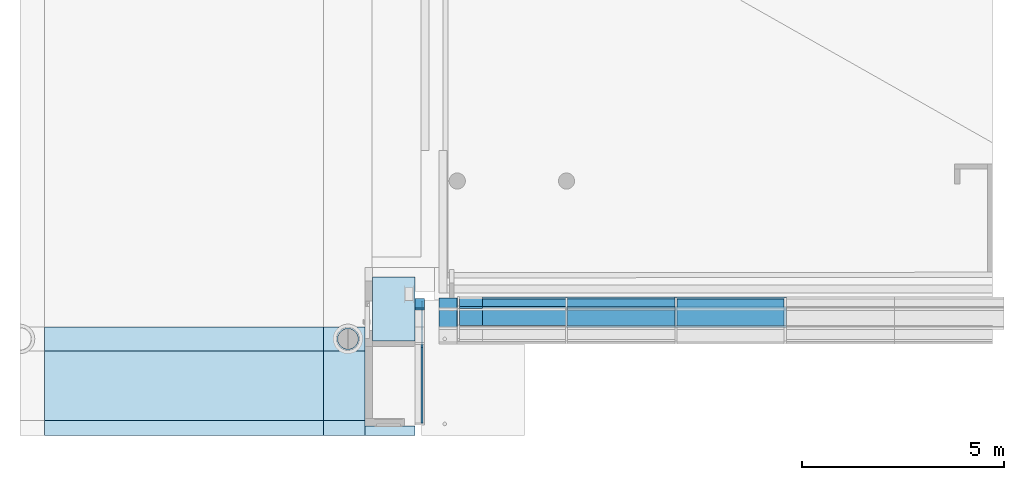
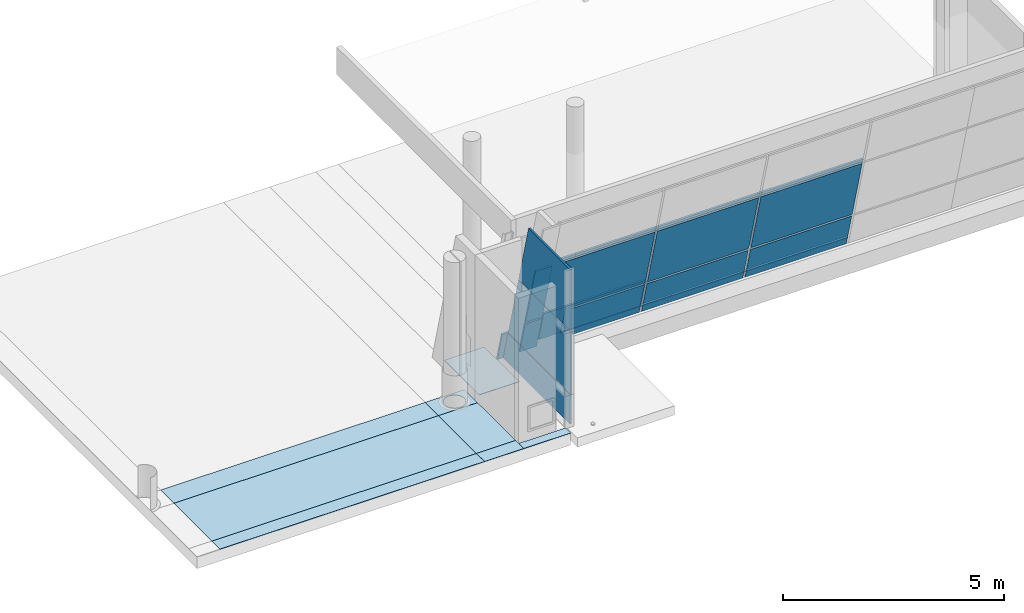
# One storey, part 2 of 10: 21 plates, 8 slabs, 1 member, 1 opening, 3 elements without a shape of their own.
"""IFC2X3 building model written with IfcOpenShell, lengths in millimetres."""

from ifc_helpers import new_model, entity, si_unit, converted_unit, derived_unit, direction, frame, frame_2d, origin, origin_with_axes, origin_2d_with_axis, place, context, subcontext, project, spatial, polyline, rectangle, circle, outline, extrude, faceted_brep, source, transform, mapped, material, layer, layer_set, layer_usage, type_object, element, aggregate, save


model = new_model("IFC2X3")

# Units and contexts
model_context = context("Model", 3, precision=0.01, world=origin(), true_north=direction((6.12303176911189e-17, 1.0)))
plan_context = context("Plan", 3, precision=1e-05, world=origin_with_axes())
body_context = subcontext(model_context, "Body", "Model", "MODEL_VIEW")
ifc_project = project(units=[converted_unit("PLANEANGLEUNIT", "DEGREE", entity("IfcPositiveLengthMeasure", 0.0174532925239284), si_unit("PLANEANGLEUNIT", "RADIAN"), dimensions=[0, 0, 0, 0, 0, 0, 0]), si_unit("AREAUNIT", "SQUARE_METRE"), si_unit("LENGTHUNIT", "METRE", prefix="MILLI"), si_unit("MASSUNIT", "GRAM", prefix="KILO"), si_unit("POWERUNIT", "WATT"), si_unit("PRESSUREUNIT", "PASCAL"), si_unit("FORCEUNIT", "NEWTON", prefix="KILO"), si_unit("ELECTRICVOLTAGEUNIT", "VOLT"), si_unit("ELECTRICCURRENTUNIT", "AMPERE"), si_unit("THERMODYNAMICTEMPERATUREUNIT", "DEGREE_CELSIUS"), si_unit("TIMEUNIT", "SECOND"), si_unit("VOLUMEUNIT", "CUBIC_METRE"), derived_unit("LINEARVELOCITYUNIT", [(si_unit("LENGTHUNIT", "METRE"), 1), (si_unit("TIMEUNIT", "SECOND"), -1)]), derived_unit("VOLUMETRICFLOWRATEUNIT", [(si_unit("VOLUMEUNIT", "CUBIC_METRE"), 1), (si_unit("TIMEUNIT", "SECOND"), -1)]), derived_unit("THERMALTRANSMITTANCEUNIT", [(si_unit("POWERUNIT", "WATT"), 1), (si_unit("THERMODYNAMICTEMPERATUREUNIT", "KELVIN"), -1), (si_unit("AREAUNIT", "SQUARE_METRE"), -1)]), derived_unit("SOUNDPRESSUREUNIT", [(si_unit("PRESSUREUNIT", "PASCAL"), 1)])], contexts=[model_context, plan_context])

# Site, building, storey
site_placement = place(None, frame((2314154.5009392, 1029894.10887124, 0.0), z_axis=(0.0, 0.0, 1.0), x_axis=(1.0, 0.0, 0.0)))
site = spatial("IfcSite", under=ifc_project, at=site_placement, Name="Default", CompositionType="ELEMENT")
building_placement = place(site_placement, origin_with_axes())
building = spatial("IfcBuilding", under=site, at=building_placement, CompositionType="ELEMENT")
storey_placement = place(building_placement, frame((0.0, 0.0, 9320.0), z_axis=(0.0, 0.0, 1.0), x_axis=(1.0, 0.0, 0.0)))
storey = spatial("IfcBuildingStorey", under=building, at=storey_placement, Name="H01 Hovedetasje", CompositionType="ELEMENT", Elevation=9320.0)

# Curtain wall, member
curtain_wall_type_1 = type_object("IfcCurtainWallType", Name="Curtain Wall:V_TA Curtain Wall Solid panels", PredefinedType="NOTDEFINED")
curtain_wall_1_placement = place(storey_placement, frame((0.0, 0.0, -9320.0), z_axis=(0.0, 0.0, 1.0), x_axis=(1.0, 0.0, 0.0)))
curtain_wall_1 = element("IfcCurtainWall", 1, at=curtain_wall_1_placement, inside=storey, type_object=curtain_wall_type_1, Name="Curtain Wall:V_TA Curtain Wall Solid panels", ObjectType="Curtain Wall:V_TA Curtain Wall Solid panels")
ifc_material_1 = material(Name="T2_Metal_Aluminium")
member_type = type_object("IfcMemberType", Name="Rectangular Mullion:Værnes 50 X 150 Fasade TA", PredefinedType="MULLION", material=ifc_material_1)
shared_shape_1 = source(origin(), body_context, "Body", "Brep", [
    faceted_brep([(-50.0, -176.5, -65.1646901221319), (-50.0, -26.4999999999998, -65.1646901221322), (-50.0, -26.4999999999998, -919.337742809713), (-50.0, -176.5, -919.337742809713), (0.0, -176.5, 0.0), (0.0, -176.5, -919.337742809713), (0.0, -26.4999999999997, 0.0), (0.0, -26.4999999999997, -919.337742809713), (0.0, 62.4655101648, 0.0), (0.0, 62.4655101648, -919.337742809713), (-25.0, 62.4655101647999, -32.5823450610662), (-25.0, 62.4655101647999, -919.337742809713), (-50.0, 62.4655101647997, -65.1646901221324), (-50.0, 62.4655101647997, -919.337742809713)], [[[0, 1, 2, 3]], [[4, 0, 3, 5]], [[6, 4, 5, 7]], [[8, 6, 7, 9]], [[10, 8, 9, 11]], [[12, 10, 11, 13]], [[1, 12, 13, 2]], [[1, 0, 4, 6, 8, 10, 12]], [[2, 13, 11, 9, 7, 5, 3]]]),
])
member_placement = place(curtain_wall_1_placement, frame((103188.585595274, -38947.8450095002, 9270.0), z_axis=(0.0, 0.258819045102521, -0.965925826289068), x_axis=(0.0, 0.965925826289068, 0.258819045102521)))
member = element("IfcMember", 2, at=member_placement, type_object=member_type, material=ifc_material_1, Name="Rectangular Mullion:Værnes 50 X 150 Fasade TA", ObjectType="Rectangular Mullion:Værnes 50 X 150 Fasade TA", context=body_context, shape_type="MappedRepresentation", body=[
    mapped(shared_shape_1, transform((0.0, 0.0, 0.0), scale=1.0)),
])

# Curtain wall, plates
curtain_wall_type_2 = type_object("IfcCurtainWallType", Name="Curtain System:1500 x 3000", PredefinedType="NOTDEFINED")
curtain_wall_2_placement = place(storey_placement, frame((0.0, 0.0, -9320.0), z_axis=(0.0, 0.0, 1.0), x_axis=(1.0, 0.0, 0.0)))
curtain_wall_2 = element("IfcCurtainWall", 3, at=curtain_wall_2_placement, inside=storey, type_object=curtain_wall_type_2, Name="Curtain System:1500 x 3000", ObjectType="Curtain System:1500 x 3000")
ifc_material_2 = material(Name="Glass 01_jb")
plate_type_1 = type_object("IfcPlateType", Name="System Panel:Glazed-generic", PredefinedType="CURTAIN_PANEL", material=ifc_material_2)
shared_shape_2 = source(origin(), body_context, "Body", "SweptSolid", [
    extrude(rectangle(XDim=48.0, YDim=2644.00000000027, at=origin_2d_with_axis()), frame((0.0, 8.50000000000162, 0.0), z_axis=(0.0, 0.0, 1.0), x_axis=(0.0, 1.0, 0.0)), (0.0, 0.0, 1.0), 951.999999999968),
])
plate_1_placement = place(curtain_wall_2_placement, frame((110810.333947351, -38954.4514097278, 9320.0), z_axis=(0.0, -0.260890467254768, 0.965368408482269), x_axis=(-1.0, 0.0, 0.0)))
plate_1 = element("IfcPlate", 4, at=plate_1_placement, type_object=plate_type_1, material=ifc_material_2, Name="System Panel:Glazed-generic", ObjectType="System Panel:Glazed-generic", context=body_context, shape_type="MappedRepresentation", body=[
    mapped(shared_shape_2, transform((0.0, 0.0, 0.0), scale=1.0)),
])
plate_2_placement = place(curtain_wall_2_placement, frame((108110.333947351, -38954.4514097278, 9320.0), z_axis=(0.0, -0.260890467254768, 0.965368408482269), x_axis=(-1.0, 0.0, 0.0)))
plate_2 = element("IfcPlate", 5, at=plate_2_placement, type_object=plate_type_1, material=ifc_material_2, Name="System Panel:Glazed-generic", ObjectType="System Panel:Glazed-generic", context=body_context, shape_type="MappedRepresentation", body=[
    mapped(shared_shape_2, transform((0.0, 0.0, 0.0), scale=1.0)),
])
plate_type_2 = type_object("IfcPlateType", Name="System Panel:Glazed-generic", PredefinedType="CURTAIN_PANEL", material=ifc_material_2)
shared_shape_3 = source(origin(), body_context, "Body", "SweptSolid", [
    extrude(rectangle(XDim=48.0, YDim=2681.73297785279, at=origin_2d_with_axis()), frame((0.0, 8.50000000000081, 0.0), z_axis=(0.0, 0.0, 1.0), x_axis=(0.0, 1.0, 0.0)), (0.0, 0.0, 1.0), 952.000000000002),
])
plate_3_placement = place(curtain_wall_2_placement, frame((105391.467458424, -38954.4514097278, 9320.0), z_axis=(0.0, -0.260890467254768, 0.965368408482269), x_axis=(-1.0, 0.0, 0.0)))
plate_3 = element("IfcPlate", 6, at=plate_3_placement, type_object=plate_type_2, material=ifc_material_2, Name="System Panel:Glazed-generic", ObjectType="System Panel:Glazed-generic", context=body_context, shape_type="MappedRepresentation", body=[
    mapped(shared_shape_3, transform((0.0, 0.0, 0.0), scale=1.0)),
])
plate_type_3 = type_object("IfcPlateType", Name="System Panel:Glazed-generic", PredefinedType="CURTAIN_PANEL", material=ifc_material_2)
shared_shape_4 = source(origin(), body_context, "Body", "SweptSolid", [
    extrude(rectangle(XDim=48.0, YDim=440.267022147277, at=origin_2d_with_axis()), frame((0.0, 8.50000000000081, 0.0), z_axis=(0.0, 0.0, 1.0), x_axis=(0.0, 1.0, 0.0)), (0.0, 0.0, 1.0), 952.000000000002),
])
plate_4_placement = place(curtain_wall_2_placement, frame((103830.467458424, -38954.4514097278, 9320.0), z_axis=(0.0, -0.260890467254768, 0.965368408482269), x_axis=(-1.0, 0.0, 0.0)))
plate_4 = element("IfcPlate", 7, at=plate_4_placement, type_object=plate_type_3, material=ifc_material_2, Name="System Panel:Glazed-generic", ObjectType="System Panel:Glazed-generic", context=body_context, shape_type="MappedRepresentation", body=[
    mapped(shared_shape_4, transform((0.0, 0.0, 0.0), scale=1.0)),
])
plate_type_4 = type_object("IfcPlateType", Name="System Panel:Glazed-generic", PredefinedType="CURTAIN_PANEL", material=ifc_material_2)
shared_shape_5 = source(origin(), body_context, "Body", "SweptSolid", [
    extrude(rectangle(XDim=48.0, YDim=2644.00000000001, at=origin_2d_with_axis()), frame((0.0, 8.49999999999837, 0.0), z_axis=(0.0, 0.0, 1.0), x_axis=(0.0, 1.0, 0.0)), (0.0, 0.0, 1.0), 1739.0),
])
plate_5_placement = place(curtain_wall_2_placement, frame((110810.333947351, -39217.4290007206, 10293.0913557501), z_axis=(0.0, -0.260890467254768, 0.965368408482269), x_axis=(-1.0, 0.0, 0.0)))
plate_5 = element("IfcPlate", 8, at=plate_5_placement, type_object=plate_type_4, material=ifc_material_2, Name="System Panel:Glazed-generic", ObjectType="System Panel:Glazed-generic", context=body_context, shape_type="MappedRepresentation", body=[
    mapped(shared_shape_5, transform((0.0, 0.0, 0.0), scale=1.0)),
])
plate_6_placement = place(curtain_wall_2_placement, frame((108110.333947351, -39217.4290007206, 10293.0913557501), z_axis=(0.0, -0.260890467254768, 0.965368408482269), x_axis=(-1.0, 0.0, 0.0)))
plate_6 = element("IfcPlate", 9, at=plate_6_placement, type_object=plate_type_4, material=ifc_material_2, Name="System Panel:Glazed-generic", ObjectType="System Panel:Glazed-generic", context=body_context, shape_type="MappedRepresentation", body=[
    mapped(shared_shape_5, transform((0.0, 0.0, 0.0), scale=1.0)),
])
plate_type_5 = type_object("IfcPlateType", Name="System Panel:Glazed-generic", PredefinedType="CURTAIN_PANEL", material=ifc_material_2)
shared_shape_6 = source(origin(), body_context, "Body", "SweptSolid", [
    extrude(rectangle(XDim=48.0, YDim=2681.73297785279, at=origin_2d_with_axis()), frame((0.0, 8.49999999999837, 0.0), z_axis=(0.0, 0.0, 1.0), x_axis=(0.0, 1.0, 0.0)), (0.0, 0.0, 1.0), 1739.0),
])
plate_7_placement = place(curtain_wall_2_placement, frame((105391.467458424, -39217.4290007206, 10293.0913557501), z_axis=(0.0, -0.260890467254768, 0.965368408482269), x_axis=(-1.0, 0.0, 0.0)))
plate_7 = element("IfcPlate", 10, at=plate_7_placement, type_object=plate_type_5, material=ifc_material_2, Name="System Panel:Glazed-generic", ObjectType="System Panel:Glazed-generic", context=body_context, shape_type="MappedRepresentation", body=[
    mapped(shared_shape_6, transform((0.0, 0.0, 0.0), scale=1.0)),
])
plate_type_6 = type_object("IfcPlateType", Name="System Panel:Glazed-generic", PredefinedType="CURTAIN_PANEL", material=ifc_material_2)
shared_shape_7 = source(origin(), body_context, "Body", "SweptSolid", [
    extrude(rectangle(XDim=48.0, YDim=440.267022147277, at=origin_2d_with_axis()), frame((0.0, 8.49999999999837, 0.0), z_axis=(0.0, 0.0, 1.0), x_axis=(0.0, 1.0, 0.0)), (0.0, 0.0, 1.0), 1739.0),
])
plate_8_placement = place(curtain_wall_2_placement, frame((103830.467458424, -39217.4290007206, 10293.0913557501), z_axis=(0.0, -0.260890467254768, 0.965368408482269), x_axis=(-1.0, 0.0, 0.0)))
plate_8 = element("IfcPlate", 11, at=plate_8_placement, type_object=plate_type_6, material=ifc_material_2, Name="System Panel:Glazed-generic", ObjectType="System Panel:Glazed-generic", context=body_context, shape_type="MappedRepresentation", body=[
    mapped(shared_shape_7, transform((0.0, 0.0, 0.0), scale=1.0)),
])
aggregate(curtain_wall_2, [plate_1, plate_2, plate_3, plate_4, plate_5, plate_6, plate_7, plate_8])

# Plate
ifc_material_3 = material(Name="Glass -  Back painted")
plate_type_7 = type_object("IfcPlateType", Name="System Panel:Værnes 50 (E203) Back Painted", PredefinedType="CURTAIN_PANEL", material=ifc_material_3)
shared_shape_8 = source(origin(), body_context, "Body", "SweptSolid", [
    extrude(outline(polyline([(-406.499999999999, -1451.15400895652), (406.5, -1451.15400895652), (406.5, 1342.21056525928), (-406.500000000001, 1560.09745265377), (-406.499999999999, -1451.15400895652)])), frame((-54.4717218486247, -25.0, 406.500000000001), z_axis=(0.0, 1.0, 0.0), x_axis=(0.0, 0.0, 1.0)), (0.0, 0.0, 1.0), 50.0),
])
plate_9_placement = place(curtain_wall_1_placement, frame((103188.585595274, -40518.6354304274, 9320.0), z_axis=(0.0, 0.0, 1.0), x_axis=(0.0, 1.0, 0.0)))
plate_9 = element("IfcPlate", 12, at=plate_9_placement, type_object=plate_type_7, material=ifc_material_3, Name="System Panel:Værnes 50 (E203) Back Painted", ObjectType="System Panel:Værnes 50 (E203) Back Painted", context=body_context, shape_type="MappedRepresentation", body=[
    mapped(shared_shape_8, transform((0.0, 0.0, 0.0), scale=1.0)),
])

ifc_material_4 = material(Name="<Unnamed>")
plate_type_8 = type_object("IfcPlateType", Name="Curtain Panel:Curtain Panel", PredefinedType="CURTAIN_PANEL", material=ifc_material_4)
shared_shape_9 = source(origin(), body_context, "Body", "SweptSolid", [
    extrude(outline(polyline([(-1225.77907601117, -1245.79141934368), (558.026026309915, -1245.79141934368), (1166.01031461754, 1022.77660833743), (-498.25726491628, 1468.80623034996), (-1225.77907601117, -1245.79141934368)])), frame((103163.585595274, -40758.5054501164, 11020.5), z_axis=(1.0, 0.0, 0.0), x_axis=(0.0, -0.25886803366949, 0.965912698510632)), (0.0, 0.0, 1.0), 50.000000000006),
])
plate_10_placement = place(curtain_wall_1_placement, origin_with_axes())
plate_10 = element("IfcPlate", 13, at=plate_10_placement, type_object=plate_type_8, material=ifc_material_4, Name="Curtain Panel:Curtain Panel", ObjectType="Curtain Panel:Curtain Panel", context=body_context, shape_type="MappedRepresentation", body=[
    mapped(shared_shape_9, transform((0.0, 0.0, 0.0), scale=1.0)),
])

plate_type_9 = type_object("IfcPlateType", Name="System Panel:Værnes 50 (E203) Back Painted", PredefinedType="CURTAIN_PANEL", material=ifc_material_3)
shared_shape_10 = source(origin(), body_context, "Body", "SweptSolid", [
    extrude(outline(polyline([(-839.593984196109, -1045.78604321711), (839.593984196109, -1045.78604321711), (839.593984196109, 820.771873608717), (-839.593984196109, 1270.80021282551), (-839.593984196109, -1045.78604321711)])), frame((-112.507084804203, -25.0, 839.593984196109), z_axis=(0.0, 1.0, 0.0), x_axis=(0.0, 0.0, 1.0)), (0.0, 0.0, 1.0), 50.0),
])
plate_11_placement = place(curtain_wall_1_placement, frame((103188.585595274, -40865.9680332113, 11912.0), z_axis=(0.0, 0.0, 1.0), x_axis=(0.0, 1.0, 0.0)))
plate_11 = element("IfcPlate", 14, at=plate_11_placement, type_object=plate_type_9, material=ifc_material_3, Name="System Panel:Værnes 50 (E203) Back Painted", ObjectType="System Panel:Værnes 50 (E203) Back Painted", context=body_context, shape_type="MappedRepresentation", body=[
    mapped(shared_shape_10, transform((0.0, 0.0, 0.0), scale=1.0)),
])

aggregate(curtain_wall_1, [member, plate_9, plate_10, plate_11])

# Curtain wall, plates
curtain_wall_type_3 = type_object("IfcCurtainWallType", Name="Curtain System:2700 x 1790", PredefinedType="NOTDEFINED")
curtain_wall_3_placement = place(storey_placement, frame((0.0, 0.0, -9320.0), z_axis=(0.0, 0.0, 1.0), x_axis=(1.0, 0.0, 0.0)))
curtain_wall_3 = element("IfcCurtainWall", 15, at=curtain_wall_3_placement, inside=storey, type_object=curtain_wall_type_3, Name="Curtain System:2700 x 1790", ObjectType="Curtain System:2700 x 1790")
plate_type_10 = type_object("IfcPlateType", Name="System Panel:Glazed-generic", PredefinedType="CURTAIN_PANEL", material=ifc_material_2)
shared_shape_11 = source(origin(), body_context, "Body", "SweptSolid", [
    extrude(rectangle(XDim=48.0, YDim=2747.50000000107, at=origin_2d_with_axis()), frame((0.0, 8.50000000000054, 0.0), z_axis=(0.0, 0.0, 1.0), x_axis=(0.0, 1.0, 0.0)), (0.0, 0.0, 1.0), 28.972207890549),
])
plate_12_placement = place(curtain_wall_3_placement, frame((110814.083947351, -38926.1690388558, 9441.68183079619), z_axis=(0.0, -0.260890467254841, 0.965368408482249), x_axis=(-1.0, 0.0, 0.0)))
plate_12 = element("IfcPlate", 16, at=plate_12_placement, type_object=plate_type_10, material=ifc_material_2, Name="System Panel:Glazed-generic", ObjectType="System Panel:Glazed-generic", context=body_context, shape_type="MappedRepresentation", body=[
    mapped(shared_shape_11, transform((0.0, 0.0, 0.0), scale=1.0)),
])
plate_type_11 = type_object("IfcPlateType", Name="System Panel:Glazed-generic", PredefinedType="CURTAIN_PANEL", material=ifc_material_2)
shared_shape_12 = source(origin(), body_context, "Body", "SweptSolid", [
    extrude(rectangle(XDim=48.0, YDim=2682.49999999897, at=origin_2d_with_axis()), frame((0.0, 8.50000000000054, 0.0), z_axis=(0.0, 0.0, 1.0), x_axis=(0.0, 1.0, 0.0)), (0.0, 0.0, 1.0), 28.972207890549),
])
plate_13_placement = place(curtain_wall_3_placement, frame((108099.083947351, -38926.1690388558, 9441.68183079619), z_axis=(0.0, -0.260890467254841, 0.965368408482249), x_axis=(-1.0, 0.0, 0.0)))
plate_13 = element("IfcPlate", 17, at=plate_13_placement, type_object=plate_type_11, material=ifc_material_2, Name="System Panel:Glazed-generic", ObjectType="System Panel:Glazed-generic", context=body_context, shape_type="MappedRepresentation", body=[
    mapped(shared_shape_12, transform((0.0, 0.0, 0.0), scale=1.0)),
])
plate_type_12 = type_object("IfcPlateType", Name="System Panel:Glazed-generic", PredefinedType="CURTAIN_PANEL", material=ifc_material_2)
shared_shape_13 = source(origin(), body_context, "Body", "SweptSolid", [
    extrude(rectangle(XDim=48.0, YDim=2069.99999999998, at=origin_2d_with_axis()), frame((0.0, 8.50000000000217, 0.0), z_axis=(0.0, 0.0, 1.0), x_axis=(0.0, 1.0, 0.0)), (0.0, 0.0, 1.0), 28.9722078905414),
])
plate_14_placement = place(curtain_wall_3_placement, frame((105722.833947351, -38926.1690388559, 9441.68183079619), z_axis=(0.0, -0.260890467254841, 0.965368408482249), x_axis=(-1.0, 0.0, 0.0)))
plate_14 = element("IfcPlate", 18, at=plate_14_placement, type_object=plate_type_12, material=ifc_material_2, Name="System Panel:Glazed-generic", ObjectType="System Panel:Glazed-generic", context=body_context, shape_type="MappedRepresentation", body=[
    mapped(shared_shape_13, transform((0.0, 0.0, 0.0), scale=1.0)),
])
plate_type_13 = type_object("IfcPlateType", Name="System Panel:Glazed-generic", PredefinedType="CURTAIN_PANEL", material=ifc_material_2)
shared_shape_14 = source(origin(), body_context, "Body", "SweptSolid", [
    extrude(rectangle(XDim=48.0, YDim=2682.49999999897, at=origin_2d_with_axis()), frame((0.0, 8.49999999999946, 0.0), z_axis=(0.0, 0.0, 1.0), x_axis=(0.0, 1.0, 0.0)), (0.0, 0.0, 1.0), 880.000000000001),
])
plate_15_placement = place(curtain_wall_3_placement, frame((108099.083947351, -38933.7276117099, 9469.6506850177), z_axis=(0.0, -0.260890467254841, 0.965368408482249), x_axis=(-1.0, 0.0, 0.0)))
plate_15 = element("IfcPlate", 19, at=plate_15_placement, type_object=plate_type_13, material=ifc_material_2, Name="System Panel:Glazed-generic", ObjectType="System Panel:Glazed-generic", context=body_context, shape_type="MappedRepresentation", body=[
    mapped(shared_shape_14, transform((0.0, 0.0, 0.0), scale=1.0)),
])
plate_type_14 = type_object("IfcPlateType", Name="System Panel:Glazed-generic", PredefinedType="CURTAIN_PANEL", material=ifc_material_2)
shared_shape_15 = source(origin(), body_context, "Body", "SweptSolid", [
    extrude(rectangle(XDim=48.0, YDim=2069.99999999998, at=origin_2d_with_axis()), frame((0.0, 8.49999999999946, 0.0), z_axis=(0.0, 0.0, 1.0), x_axis=(0.0, 1.0, 0.0)), (0.0, 0.0, 1.0), 880.000000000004),
])
plate_16_placement = place(curtain_wall_3_placement, frame((105722.833947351, -38933.7276117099, 9469.6506850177), z_axis=(0.0, -0.260890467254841, 0.965368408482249), x_axis=(-1.0, 0.0, 0.0)))
plate_16 = element("IfcPlate", 20, at=plate_16_placement, type_object=plate_type_14, material=ifc_material_2, Name="System Panel:Glazed-generic", ObjectType="System Panel:Glazed-generic", context=body_context, shape_type="MappedRepresentation", body=[
    mapped(shared_shape_15, transform((0.0, 0.0, 0.0), scale=1.0)),
])
plate_type_15 = type_object("IfcPlateType", Name="System Panel:Glazed-generic", PredefinedType="CURTAIN_PANEL", material=ifc_material_2)
shared_shape_16 = source(origin(), body_context, "Body", "SweptSolid", [
    extrude(rectangle(XDim=48.0, YDim=572.105173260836, at=origin_2d_with_axis()), frame((0.0, 8.49999999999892, 0.0), z_axis=(0.0, 0.0, 1.0), x_axis=(0.0, 1.0, 0.0)), (0.0, 0.0, 1.0), 880.0),
])
plate_17_placement = place(curtain_wall_3_placement, frame((104401.781360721, -38933.7276117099, 9469.6506850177), z_axis=(0.0, -0.260890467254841, 0.965368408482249), x_axis=(-1.0, 0.0, 0.0)))
plate_17 = element("IfcPlate", 21, at=plate_17_placement, type_object=plate_type_15, material=ifc_material_2, Name="System Panel:Glazed-generic", ObjectType="System Panel:Glazed-generic", context=body_context, shape_type="MappedRepresentation", body=[
    mapped(shared_shape_16, transform((0.0, 0.0, 0.0), scale=1.0)),
])
plate_type_16 = type_object("IfcPlateType", Name="System Panel:Glazed-generic", PredefinedType="CURTAIN_PANEL", material=ifc_material_2)
shared_shape_17 = source(origin(), body_context, "Body", "SweptSolid", [
    extrude(rectangle(XDim=48.0, YDim=2747.50000000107, at=origin_2d_with_axis()), frame((0.0, 8.49999999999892, 0.0), z_axis=(0.0, 0.0, 1.0), x_axis=(0.0, 1.0, 0.0)), (0.0, 0.0, 1.0), 1791.02779210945),
])
plate_18_placement = place(curtain_wall_3_placement, frame((110814.083947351, -39163.3112228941, 10319.1748844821), z_axis=(0.0, -0.260890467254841, 0.965368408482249), x_axis=(-1.0, 0.0, 0.0)))
plate_18 = element("IfcPlate", 22, at=plate_18_placement, type_object=plate_type_16, material=ifc_material_2, Name="System Panel:Glazed-generic", ObjectType="System Panel:Glazed-generic", context=body_context, shape_type="MappedRepresentation", body=[
    mapped(shared_shape_17, transform((0.0, 0.0, 0.0), scale=1.0)),
])
plate_type_17 = type_object("IfcPlateType", Name="System Panel:Glazed-generic", PredefinedType="CURTAIN_PANEL", material=ifc_material_2)
shared_shape_18 = source(origin(), body_context, "Body", "SweptSolid", [
    extrude(rectangle(XDim=48.0, YDim=2682.49999999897, at=origin_2d_with_axis()), frame((0.0, 8.49999999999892, 0.0), z_axis=(0.0, 0.0, 1.0), x_axis=(0.0, 1.0, 0.0)), (0.0, 0.0, 1.0), 1791.02779210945),
])
plate_19_placement = place(curtain_wall_3_placement, frame((108099.083947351, -39163.3112228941, 10319.1748844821), z_axis=(0.0, -0.260890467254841, 0.965368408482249), x_axis=(-1.0, 0.0, 0.0)))
plate_19 = element("IfcPlate", 23, at=plate_19_placement, type_object=plate_type_17, material=ifc_material_2, Name="System Panel:Glazed-generic", ObjectType="System Panel:Glazed-generic", context=body_context, shape_type="MappedRepresentation", body=[
    mapped(shared_shape_18, transform((0.0, 0.0, 0.0), scale=1.0)),
])
plate_type_18 = type_object("IfcPlateType", Name="System Panel:Glazed-generic", PredefinedType="CURTAIN_PANEL", material=ifc_material_2)
shared_shape_19 = source(origin(), body_context, "Body", "SweptSolid", [
    extrude(rectangle(XDim=48.0, YDim=2069.99999999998, at=origin_2d_with_axis()), frame((0.0, 8.49999999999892, 0.0), z_axis=(0.0, 0.0, 1.0), x_axis=(0.0, 1.0, 0.0)), (0.0, 0.0, 1.0), 1791.02779210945),
])
plate_20_placement = place(curtain_wall_3_placement, frame((105722.833947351, -39163.3112228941, 10319.1748844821), z_axis=(0.0, -0.260890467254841, 0.965368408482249), x_axis=(-1.0, 0.0, 0.0)))
plate_20 = element("IfcPlate", 24, at=plate_20_placement, type_object=plate_type_18, material=ifc_material_2, Name="System Panel:Glazed-generic", ObjectType="System Panel:Glazed-generic", context=body_context, shape_type="MappedRepresentation", body=[
    mapped(shared_shape_19, transform((0.0, 0.0, 0.0), scale=1.0)),
])
plate_type_19 = type_object("IfcPlateType", Name="System Panel:Glazed-generic", PredefinedType="CURTAIN_PANEL", material=ifc_material_2)
shared_shape_20 = source(origin(), body_context, "Body", "SweptSolid", [
    extrude(rectangle(XDim=48.0, YDim=572.105173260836, at=origin_2d_with_axis()), frame((0.0, 8.5000000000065, 0.0), z_axis=(0.0, 0.0, 1.0), x_axis=(0.0, 1.0, 0.0)), (0.0, 0.0, 1.0), 1791.02779210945),
])
plate_21_placement = place(curtain_wall_3_placement, frame((104401.781360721, -39163.3112228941, 10319.1748844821), z_axis=(0.0, -0.260890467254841, 0.965368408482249), x_axis=(-1.0, 0.0, 0.0)))
plate_21 = element("IfcPlate", 25, at=plate_21_placement, type_object=plate_type_19, material=ifc_material_2, Name="System Panel:Glazed-generic", ObjectType="System Panel:Glazed-generic", context=body_context, shape_type="MappedRepresentation", body=[
    mapped(shared_shape_20, transform((0.0, 0.0, 0.0), scale=1.0)),
])
aggregate(curtain_wall_3, [plate_12, plate_13, plate_14, plate_15, plate_16, plate_17, plate_18, plate_19, plate_20, plate_21])

# Slab
ifc_material_5 = material(Name="Værnes_Flis 01")
ifc_layer_1 = layer(ifc_material_5, 10.0)
ifc_material_6 = material(Name="Værnes_Mørtel")
ifc_layer_2 = layer(ifc_material_6, 2.0)
ifc_layer_set_1 = layer_set([ifc_layer_1, ifc_layer_2], Name="Floor:VÆRNES - GULV 01 - MATT FLIS")
ifc_layer_usage_1 = layer_usage(ifc_layer_set_1, "AXIS3", "POSITIVE", 0.0)
slab_type_1 = type_object("IfcSlabType", Name="Floor:VÆRNES - GULV 01 - MATT FLIS", PredefinedType="FLOOR", material=ifc_layer_set_1)
slab_1_placement = place(storey_placement, origin_with_axes())
element("IfcSlab", 26, at=slab_1_placement, inside=storey, type_object=slab_type_1, material=ifc_layer_usage_1, Name="Floor:VÆRNES - GULV 01 - MATT FLIS", ObjectType="Floor:VÆRNES - GULV 01 - MATT FLIS", PredefinedType="FLOOR", context=body_context, shape_type="SweptSolid", body=[
    extrude(rectangle(XDim=1719.44654897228, YDim=6900.00000000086, at=origin_2d_with_axis()), frame((97310.3339473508, -41108.9946842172, 0.0), z_axis=(0.0, 0.0, -1.0), x_axis=(0.0, 1.0, 0.0)), (0.0, 0.0, 1.0), 12.0000000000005),
])

# Slab, opening
ifc_material_7 = material(Name="Værnes_Flis 02 Polert")
ifc_layer_3 = layer(ifc_material_7, 10.0)
ifc_layer_4 = layer(ifc_material_6, 2.0)
ifc_layer_set_2 = layer_set([ifc_layer_3, ifc_layer_4], Name="Floor:VÆRNES - GULV 02 - POLERT FLIS")
ifc_layer_usage_2 = layer_usage(ifc_layer_set_2, "AXIS3", "POSITIVE", 0.0)
slab_type_2 = type_object("IfcSlabType", Name="Floor:VÆRNES - GULV 02 - POLERT FLIS", PredefinedType="FLOOR", material=ifc_layer_set_2)
slab_2_placement = place(storey_placement, frame((100760.333947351, -40249.2714097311, -12.0), z_axis=(0.0, 0.0, 1.0), x_axis=(1.0, 0.0, 0.0)))
slab_2 = element("IfcSlab", 27, at=slab_2_placement, inside=storey, type_object=slab_type_2, material=ifc_layer_usage_2, Name="Floor:VÆRNES - GULV 02 - POLERT FLIS", ObjectType="Floor:VÆRNES - GULV 02 - POLERT FLIS", PredefinedType="FLOOR", context=body_context, shape_type="SweptSolid", body=[
    extrude(rectangle(XDim=600.000000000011, YDim=1024.00256238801, at=frame_2d((0.0, 0.0), x_axis=(0.0, 1.0))), frame((512.001281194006, 300.0, 12.0), z_axis=(0.0, 0.0, -1.0), x_axis=(-1.0, 0.0, 0.0)), (0.0, 0.0, 1.0), 12.0000000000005),
])
opening_placement = place(slab_2_placement, origin_with_axes())
element("IfcOpeningElement", 28, at=opening_placement, cuts=slab_2, Name="Floor:VÆRNES - GULV 02 - POLERT FLIS", ObjectType="Opening", context=body_context, shape_type="SweptSolid", body=[
    extrude(circle(Radius=250.0, at=origin_2d_with_axis()), frame((599.983428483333, 300.063753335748, 12.0), z_axis=(0.0, 0.0, -1.0), x_axis=(1.0, 0.0, 0.0)), (0.0, 0.0, 1.0), 12.0),
])

# Slabs
slab_3_placement = place(storey_placement, origin_with_axes())
element("IfcSlab", 29, at=slab_3_placement, inside=storey, type_object=slab_type_2, material=ifc_layer_usage_2, Name="Floor:VÆRNES - GULV 02 - POLERT FLIS", ObjectType="Floor:VÆRNES - GULV 02 - POLERT FLIS", PredefinedType="FLOOR", context=body_context, shape_type="SweptSolid", body=[
    extrude(rectangle(XDim=600.000000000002, YDim=6900.00000000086, at=origin_2d_with_axis()), frame((97310.3339473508, -39949.2714097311, 0.0), z_axis=(0.0, 0.0, -1.0), x_axis=(0.0, 1.0, 0.0)), (0.0, 0.0, 1.0), 12.0000000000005),
])
slab_4_placement = place(storey_placement, origin_with_axes())
element("IfcSlab", 30, at=slab_4_placement, inside=storey, type_object=slab_type_2, material=ifc_layer_usage_2, Name="Floor:VÆRNES - GULV 02 - POLERT FLIS", ObjectType="Floor:VÆRNES - GULV 02 - POLERT FLIS", PredefinedType="FLOOR", context=body_context, shape_type="SweptSolid", body=[
    extrude(rectangle(XDim=1719.44654897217, YDim=1023.96640999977, at=origin_2d_with_axis()), frame((101272.317152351, -41108.9946842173, 0.0), z_axis=(0.0, 0.0, -1.0), x_axis=(0.0, 1.0, 0.0)), (0.0, 0.0, 1.0), 12.0000000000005),
])
slab_5_placement = place(storey_placement, origin_with_axes())
element("IfcSlab", 31, at=slab_5_placement, inside=storey, type_object=slab_type_2, material=ifc_layer_usage_2, Name="Floor:VÆRNES - GULV 02 - POLERT FLIS", ObjectType="Floor:VÆRNES - GULV 02 - POLERT FLIS", PredefinedType="FLOOR", context=body_context, shape_type="SweptSolid", body=[
    extrude(rectangle(XDim=366.673071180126, YDim=6900.00000000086, at=origin_2d_with_axis()), frame((97310.3339473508, -42152.0544942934, 0.0), z_axis=(0.0, 0.0, -1.0), x_axis=(0.0, 1.0, 0.0)), (0.0, 0.0, 1.0), 12.0000000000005),
])
slab_6_placement = place(storey_placement, origin_with_axes())
element("IfcSlab", 32, at=slab_6_placement, inside=storey, type_object=slab_type_2, material=ifc_layer_usage_2, Name="Floor:VÆRNES - GULV 02 - POLERT FLIS", ObjectType="Floor:VÆRNES - GULV 02 - POLERT FLIS", PredefinedType="FLOOR", context=body_context, shape_type="SweptSolid", body=[
    extrude(rectangle(XDim=366.673071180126, YDim=1024.00256238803, at=frame_2d((0.0, -8.69704308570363e-12), x_axis=(1.0, 0.0))), frame((101272.335228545, -42152.0544942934, 0.0), z_axis=(0.0, 0.0, -1.0), x_axis=(0.0, 1.0, 0.0)), (0.0, 0.0, 1.0), 12.0000000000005),
])
slab_7_placement = place(storey_placement, origin_with_axes())
element("IfcSlab", 33, at=slab_7_placement, inside=storey, type_object=slab_type_2, material=ifc_layer_usage_2, Name="Floor:VÆRNES - GULV 02 - POLERT FLIS", ObjectType="Floor:VÆRNES - GULV 02 - POLERT FLIS", PredefinedType="FLOOR", context=body_context, shape_type="SweptSolid", body=[
    extrude(rectangle(XDim=231.119619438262, YDim=1227.74908553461, at=frame_2d((-4.33431068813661e-12, 0.0), x_axis=(1.0, 0.0))), frame((102398.211052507, -42219.8312201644, 0.0), z_axis=(0.0, 0.0, -1.0), x_axis=(0.0, 1.0, 0.0)), (0.0, 0.0, 1.0), 12.0000000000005),
])
ifc_material_8 = material(Name="Værnes_Linoleum antistatisk")
ifc_layer_5 = layer(ifc_material_8, 3.0)
ifc_material_9 = material(Name="Værnes_Kryssfiner")
ifc_layer_6 = layer(ifc_material_9, 9.0)
ifc_layer_set_3 = layer_set([ifc_layer_5, ifc_layer_6], Name="Floor:VÆRNES - GULV 05 - LINOLEUM ANTISTATISK")
ifc_layer_usage_3 = layer_usage(ifc_layer_set_3, "AXIS3", "POSITIVE", 0.0)
slab_type_3 = type_object("IfcSlabType", Name="Floor:VÆRNES - GULV 05 - LINOLEUM ANTISTATISK", PredefinedType="FLOOR", material=ifc_layer_set_3)
slab_8_placement = place(storey_placement, origin_with_axes())
element("IfcSlab", 34, at=slab_8_placement, inside=storey, type_object=slab_type_3, material=ifc_layer_usage_3, Name="Floor:VÆRNES - GULV 05 - LINOLEUM ANTISTATISK", ObjectType="Floor:VÆRNES - GULV 05 - LINOLEUM ANTISTATISK", PredefinedType="FLOOR", context=body_context, shape_type="SweptSolid", body=[
    extrude(rectangle(XDim=1582.01153980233, YDim=1041.74908553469, at=frame_2d((2.1600499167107e-12, 0.0), x_axis=(1.0, 0.0))), frame((102491.211052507, -39214.5829934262, 2.0), z_axis=(0.0, 0.0, -1.0), x_axis=(0.0, 1.0, 0.0)), (0.0, 0.0, 1.0), 12.0000000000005),
])

save(model, "model.ifc")
